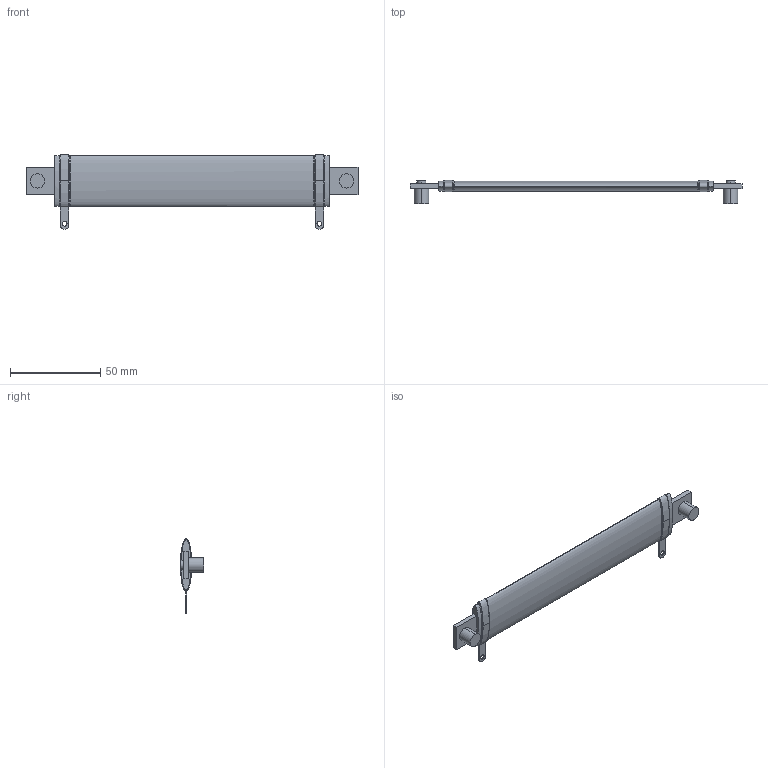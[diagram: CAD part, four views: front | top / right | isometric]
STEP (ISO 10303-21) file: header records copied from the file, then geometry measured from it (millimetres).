
FILE_DESCRIPTION (( 'STEP AP203' ), '1' );
FILE_NAME ('FSOT95-09E.STEP', '2019-11-04T15:55:18', ( '' ), ( '' ), 'SwSTEP 2.0', 'SolidWorks 2019', '' );
FILE_SCHEMA (( 'CONFIG_CONTROL_DESIGN' ));
Length unit declared in the file: millimetre
Products named in the file (1): FSOT95-09E
Bounding box: 184.16 x 12.91 x 41.12 mm (x, y, z)
Volume: 20954.4 mm3; surface area: 11093 mm2
Topology: 1 solids, 1 shells, 122 faces, 322 edges, 208 vertices
Faces by surface type: bspline 80, plane 26, cylinder 16
Entity records: 6447 total; most frequent: CARTESIAN_POINT 3891, ORIENTED_EDGE 644, DIRECTION 338, EDGE_CURVE 322, VERTEX_POINT 208, B_SPLINE_CURVE_WITH_KNOTS 158, AXIS2_PLACEMENT_3D 135, EDGE_LOOP 132
